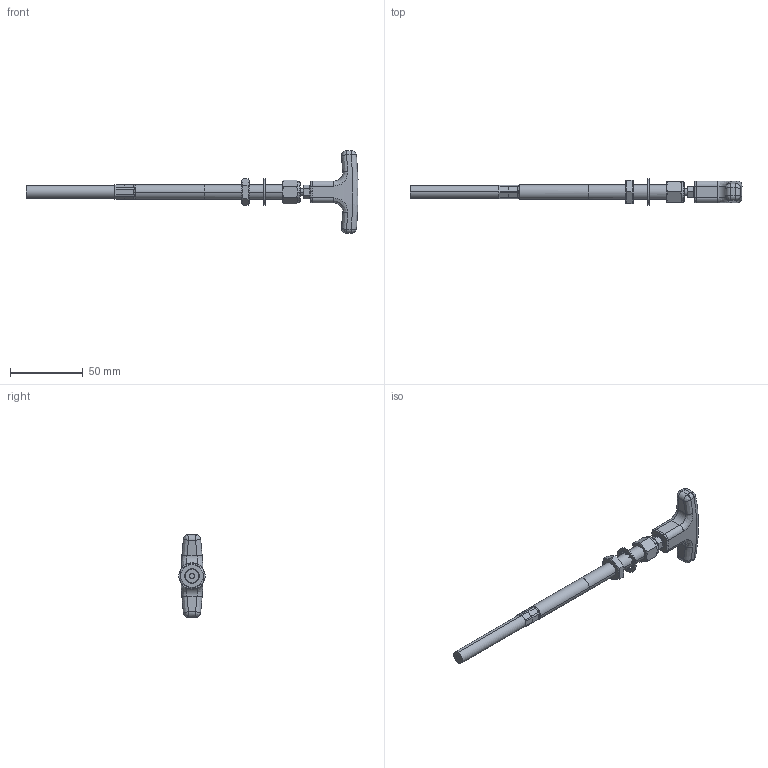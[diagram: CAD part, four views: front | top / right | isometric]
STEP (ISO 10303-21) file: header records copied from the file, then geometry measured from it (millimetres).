
FILE_DESCRIPTION((''),'2;1');
FILE_NAME('4582-102XXX-MIT_T-GRIFF_ASM','2026-06-17T09:15:28',('LACR'),(''),'CREO PARAMETRIC BY PTC INC, 2025102','CREO PARAMETRIC BY PTC INC, 2025102','');
FILE_SCHEMA(('CONFIG_CONTROL_DESIGN','SHAPE_APPEARANCE_LAYERS_GROUPS'));
Length unit declared in the file: millimetre
Products named in the file (11): 2580-108102-000000; 2585-210001-000000; 2585-410001-000000; 5116-004003-000000; 2581-105201-A00003; 5128-005101-000000; 5128-010104-000000; 5147-009001-000000; 2563-007001-000000; 2580-205401-000000NL3Z; 4582-102XXX-MIT_T-GRIFF_ASM
Assembly tree (10 placements, depth 2):
  4582-102XXX-MIT_T-GRIFF_ASM
    2580-108102-000000
    2585-210001-000000
    2585-410001-000000
    5116-004003-000000
    2581-105201-A00003
    5128-005101-000000
    5128-010104-000000
    5147-009001-000000
    2563-007001-000000
    2580-205401-000000NL3Z
Bounding box: 227.56 x 18 x 56.5 mm (x, y, z)
Volume: 27810.4 mm3; surface area: 21347.8 mm2
Topology: 10 solids, 15 shells, 703 faces, 1921 edges, 1239 vertices
Faces by surface type: cylinder 528, plane 82, bspline 50, cone 36, torus 7
Entity records: 36064 total; most frequent: CARTESIAN_POINT 15184, ORIENTED_EDGE 3798, DIRECTION 2001, EDGE_CURVE 1909, PRESENTATION_STYLE_ASSIGNMENT 1893, STYLED_ITEM 1880, CURVE_STYLE 1867, B_SPLINE_CURVE_WITH_KNOTS 1497
